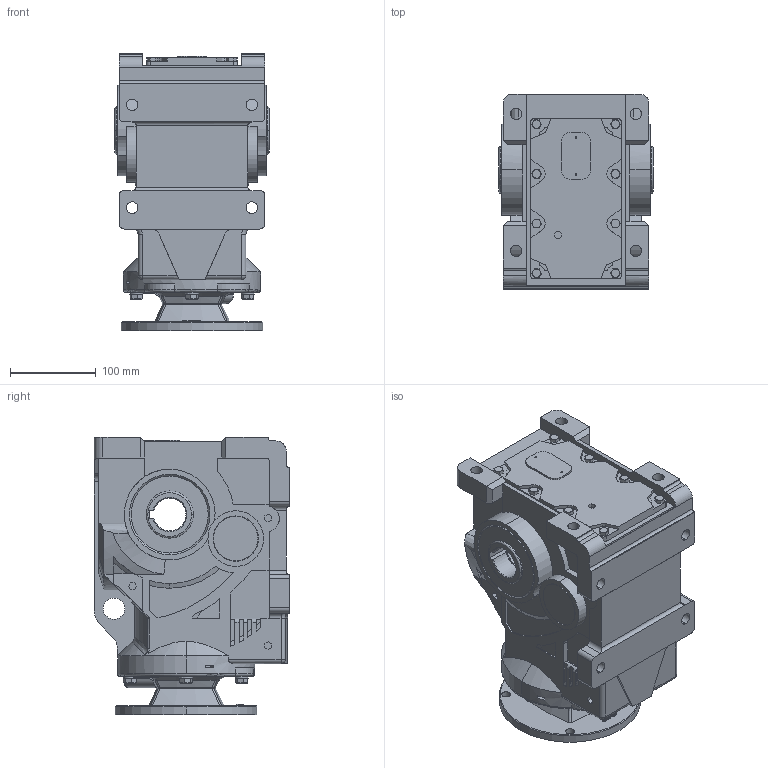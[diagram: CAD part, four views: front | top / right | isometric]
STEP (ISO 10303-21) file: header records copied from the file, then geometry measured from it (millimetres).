
FILE_DESCRIPTION (( 'STEP AP203' ), '1' );
FILE_NAME ('KHN67-56C.STEP', '2022-04-07T08:22:38', ( 'user1' ), ( '' ), 'SwSTEP 2.0', 'SolidWorks 2012', '' );
FILE_SCHEMA (( 'CONFIG_CONTROL_DESIGN' ));
Products named in the file (1): KHN67-56C
Bounding box: 180 x 228 x 323.5 mm (x, y, z)
Volume: 3793029.5 mm3; surface area: 743530.7 mm2
Topology: 1 solids, 1 shells, 1595 faces, 4181 edges, 2699 vertices
Faces by surface type: plane 718, cylinder 502, cone 161, bspline 145, torus 64, sphere 5
Entity records: 58868 total; most frequent: CARTESIAN_POINT 20437, ORIENTED_EDGE 8344, DIRECTION 7575, EDGE_CURVE 4172, AXIS2_PLACEMENT_3D 2772, VERTEX_POINT 2699, VECTOR 2031, LINE 2031
